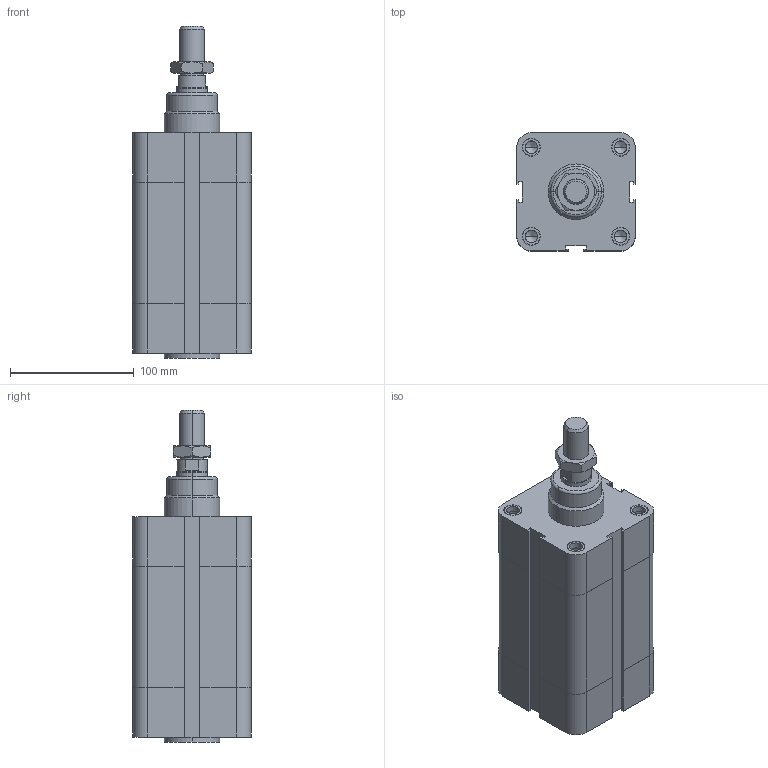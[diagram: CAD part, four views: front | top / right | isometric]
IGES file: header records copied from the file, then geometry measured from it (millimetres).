
Global section: file name: No Iges File Name specified; native system: AutoDesk Inventor R6.1; preprocessor: AutoDesk Inventor Iges Exporter R6.1; author: No Author specified; organization: No Organization specified; date: 20040107.171105; units: millimetre
Bounding box: 95.5 x 95.5 x 268 mm (x, y, z)
Volume: 1615981.1 mm3; surface area: 126499.2 mm2
Topology: 3 solids, 3 shells, 244 faces, 570 edges, 356 vertices
Faces by surface type: plane 83, bspline 67, cylinder 34, revolution 34, cone 24, torus 2
